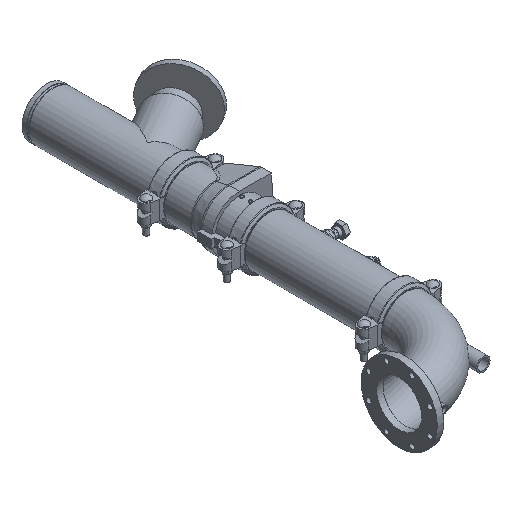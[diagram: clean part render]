
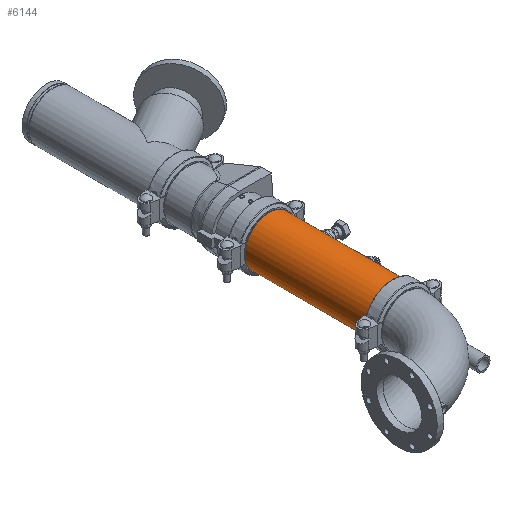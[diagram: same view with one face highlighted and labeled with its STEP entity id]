
A CAD part, isometric view. The second image highlights one B-rep face of the part: STEP entity #6144.
In plain terms, the highlighted cylindrical face has radius 109.537 mm (diameter 219.075 mm), a full revolution.
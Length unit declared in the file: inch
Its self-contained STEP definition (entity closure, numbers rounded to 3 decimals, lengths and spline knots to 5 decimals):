
#173=LINE('',#9340,#619);
#619=VECTOR('',#7424,4.3125);
#1065=CYLINDRICAL_SURFACE('',#6666,4.3125);
#1269=FACE_OUTER_BOUND('',#1613,.T.);
#1613=EDGE_LOOP('',(#3863,#3864,#3865,#3866,#3867,#3868));
#2037=CIRCLE('',#6664,4.3125);
#2038=CIRCLE('',#6665,4.3125);
#2039=CIRCLE('',#6667,4.3125);
#2040=CIRCLE('',#6668,4.3125);
#2388=VERTEX_POINT('',#9331);
#2389=VERTEX_POINT('',#9332);
#2390=VERTEX_POINT('',#9336);
#2391=VERTEX_POINT('',#9337);
#2982=EDGE_CURVE('',#2388,#2389,#2037,.T.);
#2983=EDGE_CURVE('',#2389,#2388,#2038,.T.);
#2984=EDGE_CURVE('',#2390,#2391,#2039,.T.);
#2985=EDGE_CURVE('',#2391,#2390,#2040,.T.);
#2986=EDGE_CURVE('',#2391,#2389,#173,.T.);
#3863=ORIENTED_EDGE('',*,*,#2984,.F.);
#3864=ORIENTED_EDGE('',*,*,#2985,.F.);
#3865=ORIENTED_EDGE('',*,*,#2986,.T.);
#3866=ORIENTED_EDGE('',*,*,#2983,.T.);
#3867=ORIENTED_EDGE('',*,*,#2982,.T.);
#3868=ORIENTED_EDGE('',*,*,#2986,.F.);
#6144=ADVANCED_FACE('',(#1269),#1065,.T.);
#6664=AXIS2_PLACEMENT_3D('',#9333,#7414,#7415);
#6665=AXIS2_PLACEMENT_3D('',#9334,#7416,#7417);
#6666=AXIS2_PLACEMENT_3D('',#9335,#7418,#7419);
#6667=AXIS2_PLACEMENT_3D('',#9338,#7420,#7421);
#6668=AXIS2_PLACEMENT_3D('',#9339,#7422,#7423);
#7414=DIRECTION('center_axis',(1.,0.,0.));
#7415=DIRECTION('ref_axis',(0.,0.,-1.));
#7416=DIRECTION('center_axis',(1.,0.,0.));
#7417=DIRECTION('ref_axis',(0.,0.,-1.));
#7418=DIRECTION('center_axis',(1.,0.,0.));
#7419=DIRECTION('ref_axis',(0.,1.,0.));
#7420=DIRECTION('center_axis',(1.,0.,0.));
#7421=DIRECTION('ref_axis',(0.,0.,-1.));
#7422=DIRECTION('center_axis',(1.,0.,0.));
#7423=DIRECTION('ref_axis',(0.,0.,-1.));
#7424=DIRECTION('',(-1.,0.,0.));
#9331=CARTESIAN_POINT('',(-10.796,4.3125,0.));
#9332=CARTESIAN_POINT('',(-10.796,-4.3125,0.));
#9333=CARTESIAN_POINT('Origin',(-10.796,0.,0.));
#9334=CARTESIAN_POINT('Origin',(-10.796,0.,0.));
#9335=CARTESIAN_POINT('Origin',(0.,0.,0.));
#9336=CARTESIAN_POINT('',(10.796,4.3125,0.));
#9337=CARTESIAN_POINT('',(10.796,-4.3125,0.));
#9338=CARTESIAN_POINT('Origin',(10.796,0.,0.));
#9339=CARTESIAN_POINT('Origin',(10.796,0.,0.));
#9340=CARTESIAN_POINT('',(0.,-4.3125,0.));
